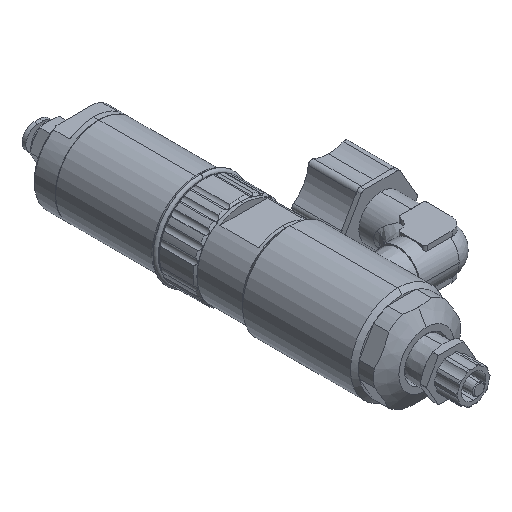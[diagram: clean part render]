
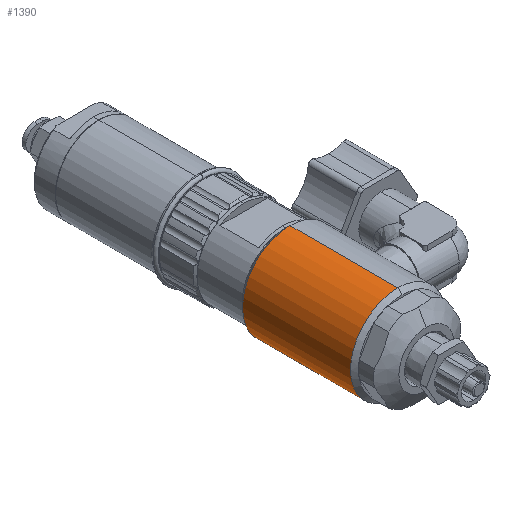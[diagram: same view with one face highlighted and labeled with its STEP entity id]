
A CAD part, isometric view. The second image highlights one B-rep face of the part: STEP entity #1390.
In plain terms, the highlighted cylindrical face has radius 15.557 mm (diameter 31.115 mm), a partial arc.
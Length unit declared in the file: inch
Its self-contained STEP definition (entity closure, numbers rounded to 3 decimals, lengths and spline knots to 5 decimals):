
#1390 = ADVANCED_FACE ( 'NONE', ( #5434 ), #14014, .T. ) ;
#2526 = CIRCLE ( 'NONE', #17752, 0.6125 ) ;
#3127 = ORIENTED_EDGE ( 'NONE', *, *, #20997, .T. ) ;
#4973 = CARTESIAN_POINT ( 'NONE',  ( 0., -0.6455, 0.6125 ) ) ;
#5374 = AXIS2_PLACEMENT_3D ( 'NONE', #18609, #23095, #12423 ) ;
#5434 = FACE_OUTER_BOUND ( 'NONE', #11779, .T. ) ;
#5817 = CIRCLE ( 'NONE', #5374, 0.6125 ) ;
#6299 = ORIENTED_EDGE ( 'NONE', *, *, #26408, .F. ) ;
#6321 = VECTOR ( 'NONE', #15210, 39.37008 ) ;
#7496 = LINE ( 'NONE', #18454, #26038 ) ;
#8872 = CARTESIAN_POINT ( 'NONE',  ( 0., -2.093, -0.6125 ) ) ;
#8927 = EDGE_CURVE ( 'NONE', #24368, #18036, #2526, .T. ) ;
#9922 = DIRECTION ( 'NONE',  ( 0., 1., 0. ) ) ;
#9923 = VERTEX_POINT ( 'NONE', #4973 ) ;
#10963 = CARTESIAN_POINT ( 'NONE',  ( 0., -0.6455, -0.6125 ) ) ;
#11779 = EDGE_LOOP ( 'NONE', ( #26836, #24132, #3127, #6299 ) ) ;
#11902 = CARTESIAN_POINT ( 'NONE',  ( 0., -2.093, 0. ) ) ;
#12423 = DIRECTION ( 'NONE',  ( 0., 0., -1. ) ) ;
#12946 = AXIS2_PLACEMENT_3D ( 'NONE', #11902, #9922, #23390 ) ;
#14014 = CYLINDRICAL_SURFACE ( 'NONE', #12946, 0.6125 ) ;
#14580 = CARTESIAN_POINT ( 'NONE',  ( 0., -2.0405, 0. ) ) ;
#15210 = DIRECTION ( 'NONE',  ( 0., 1., 0. ) ) ;
#16615 = DIRECTION ( 'NONE',  ( 0., 1., 0. ) ) ;
#16667 = CARTESIAN_POINT ( 'NONE',  ( 0., -2.0405, 0.6125 ) ) ;
#16816 = DIRECTION ( 'NONE',  ( 0., 0., 1. ) ) ;
#17752 = AXIS2_PLACEMENT_3D ( 'NONE', #14580, #18643, #16816 ) ;
#18036 = VERTEX_POINT ( 'NONE', #25779 ) ;
#18454 = CARTESIAN_POINT ( 'NONE',  ( 0., -2.093, 0.6125 ) ) ;
#18609 = CARTESIAN_POINT ( 'NONE',  ( 0., -0.6455, 0. ) ) ;
#18643 = DIRECTION ( 'NONE',  ( 0., -1., 0. ) ) ;
#20997 = EDGE_CURVE ( 'NONE', #24368, #9923, #7496, .T. ) ;
#21254 = EDGE_CURVE ( 'NONE', #18036, #22247, #25879, .T. ) ;
#22247 = VERTEX_POINT ( 'NONE', #10963 ) ;
#23095 = DIRECTION ( 'NONE',  ( 0., 1., 0. ) ) ;
#23390 = DIRECTION ( 'NONE',  ( 0., 0., 1. ) ) ;
#24132 = ORIENTED_EDGE ( 'NONE', *, *, #8927, .F. ) ;
#24368 = VERTEX_POINT ( 'NONE', #16667 ) ;
#25779 = CARTESIAN_POINT ( 'NONE',  ( 0., -2.0405, -0.6125 ) ) ;
#25879 = LINE ( 'NONE', #8872, #6321 ) ;
#26038 = VECTOR ( 'NONE', #16615, 39.37008 ) ;
#26408 = EDGE_CURVE ( 'NONE', #22247, #9923, #5817, .T. ) ;
#26836 = ORIENTED_EDGE ( 'NONE', *, *, #21254, .F. ) ;
